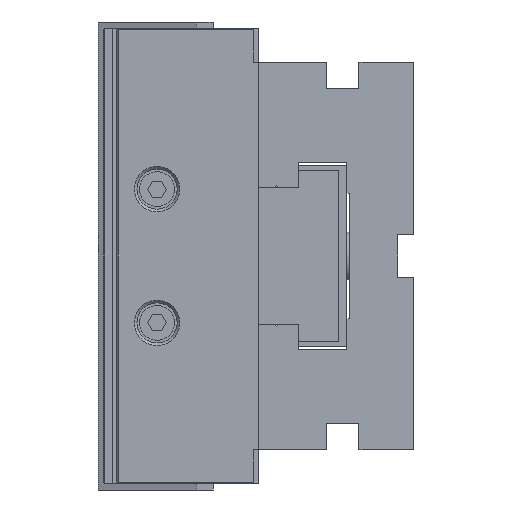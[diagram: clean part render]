
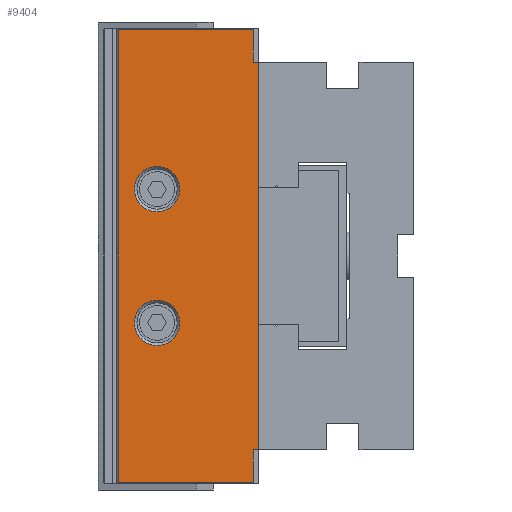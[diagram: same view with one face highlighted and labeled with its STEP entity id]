
A CAD part, left-side view. The second image highlights one B-rep face of the part: STEP entity #9404.
In plain terms, the highlighted planar face has unit normal (-1, 0, 0).
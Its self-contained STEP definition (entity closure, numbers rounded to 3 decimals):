
#185=FACE_BOUND('',#1312,.T.);
#186=FACE_BOUND('',#1313,.T.);
#349=CIRCLE('',#10178,8.5);
#352=CIRCLE('',#10182,8.5);
#731=FACE_OUTER_BOUND('',#1311,.T.);
#1311=EDGE_LOOP('',(#6951,#6952,#6953,#6954,#6955,#6956,#6957,#6958));
#1312=EDGE_LOOP('',(#6959));
#1313=EDGE_LOOP('',(#6960));
#2078=LINE('',#14293,#3136);
#2079=LINE('',#14295,#3137);
#2080=LINE('',#14297,#3138);
#2081=LINE('',#14299,#3139);
#2082=LINE('',#14301,#3140);
#2083=LINE('',#14303,#3141);
#2084=LINE('',#14305,#3142);
#2085=LINE('',#14306,#3143);
#3136=VECTOR('',#11642,10.);
#3137=VECTOR('',#11643,10.);
#3138=VECTOR('',#11644,10.);
#3139=VECTOR('',#11645,10.);
#3140=VECTOR('',#11646,10.);
#3141=VECTOR('',#11647,10.);
#3142=VECTOR('',#11648,10.);
#3143=VECTOR('',#11649,10.);
#4149=VERTEX_POINT('',#14283);
#4152=VERTEX_POINT('',#14291);
#4153=VERTEX_POINT('',#14292);
#4154=VERTEX_POINT('',#14294);
#4155=VERTEX_POINT('',#14296);
#4156=VERTEX_POINT('',#14298);
#4157=VERTEX_POINT('',#14300);
#4158=VERTEX_POINT('',#14302);
#4159=VERTEX_POINT('',#14304);
#4160=VERTEX_POINT('',#14307);
#5172=EDGE_CURVE('',#4149,#4149,#349,.T.);
#5176=EDGE_CURVE('',#4152,#4153,#2078,.T.);
#5177=EDGE_CURVE('',#4153,#4154,#2079,.T.);
#5178=EDGE_CURVE('',#4154,#4155,#2080,.T.);
#5179=EDGE_CURVE('',#4155,#4156,#2081,.T.);
#5180=EDGE_CURVE('',#4156,#4157,#2082,.T.);
#5181=EDGE_CURVE('',#4158,#4157,#2083,.T.);
#5182=EDGE_CURVE('',#4159,#4158,#2084,.T.);
#5183=EDGE_CURVE('',#4152,#4159,#2085,.T.);
#5184=EDGE_CURVE('',#4160,#4160,#352,.T.);
#6951=ORIENTED_EDGE('',*,*,#5176,.T.);
#6952=ORIENTED_EDGE('',*,*,#5177,.T.);
#6953=ORIENTED_EDGE('',*,*,#5178,.T.);
#6954=ORIENTED_EDGE('',*,*,#5179,.T.);
#6955=ORIENTED_EDGE('',*,*,#5180,.T.);
#6956=ORIENTED_EDGE('',*,*,#5181,.F.);
#6957=ORIENTED_EDGE('',*,*,#5182,.F.);
#6958=ORIENTED_EDGE('',*,*,#5183,.F.);
#6959=ORIENTED_EDGE('',*,*,#5184,.F.);
#6960=ORIENTED_EDGE('',*,*,#5172,.F.);
#8755=PLANE('',#10181);
#9404=ADVANCED_FACE('',(#731,#185,#186),#8755,.T.);
#10178=AXIS2_PLACEMENT_3D('',#14284,#11633,#11634);
#10181=AXIS2_PLACEMENT_3D('',#14290,#11640,#11641);
#10182=AXIS2_PLACEMENT_3D('',#14308,#11650,#11651);
#11633=DIRECTION('center_axis',(-1.,0.,0.));
#11634=DIRECTION('ref_axis',(0.,0.,-1.));
#11640=DIRECTION('center_axis',(-1.,0.,0.));
#11641=DIRECTION('ref_axis',(0.,0.,1.));
#11642=DIRECTION('',(0.,0.,1.));
#11643=DIRECTION('',(0.,-1.,0.));
#11644=DIRECTION('',(0.,0.,1.));
#11645=DIRECTION('',(0.,1.,0.));
#11646=DIRECTION('',(0.,0.,1.));
#11647=DIRECTION('',(0.,-1.,0.));
#11648=DIRECTION('',(0.,0.,1.));
#11649=DIRECTION('',(0.,1.,0.));
#11650=DIRECTION('center_axis',(-1.,0.,0.));
#11651=DIRECTION('ref_axis',(0.,0.,-1.));
#14283=CARTESIAN_POINT('',(-330.,96.,-16.5));
#14284=CARTESIAN_POINT('Origin',(-330.,96.,-25.));
#14290=CARTESIAN_POINT('Origin',(-330.,58.,-85.));
#14291=CARTESIAN_POINT('',(-330.,60.,-84.6));
#14292=CARTESIAN_POINT('',(-330.,60.,-72.5));
#14293=CARTESIAN_POINT('',(-330.,60.,-81.875));
#14294=CARTESIAN_POINT('',(-330.,58.,-72.5));
#14295=CARTESIAN_POINT('',(-330.,58.,-72.5));
#14296=CARTESIAN_POINT('',(-330.,58.,72.5));
#14297=CARTESIAN_POINT('',(-330.,58.,-85.));
#14298=CARTESIAN_POINT('',(-330.,60.,72.5));
#14299=CARTESIAN_POINT('',(-330.,58.,72.5));
#14300=CARTESIAN_POINT('',(-330.,60.,84.6));
#14301=CARTESIAN_POINT('',(-330.,60.,-3.125));
#14302=CARTESIAN_POINT('',(-330.,110.6,84.6));
#14303=CARTESIAN_POINT('',(-330.,58.,84.6));
#14304=CARTESIAN_POINT('',(-330.,110.6,-84.6));
#14305=CARTESIAN_POINT('',(-330.,110.6,0.));
#14306=CARTESIAN_POINT('',(-330.,58.,-84.6));
#14307=CARTESIAN_POINT('',(-330.,96.,33.5));
#14308=CARTESIAN_POINT('Origin',(-330.,96.,25.));
